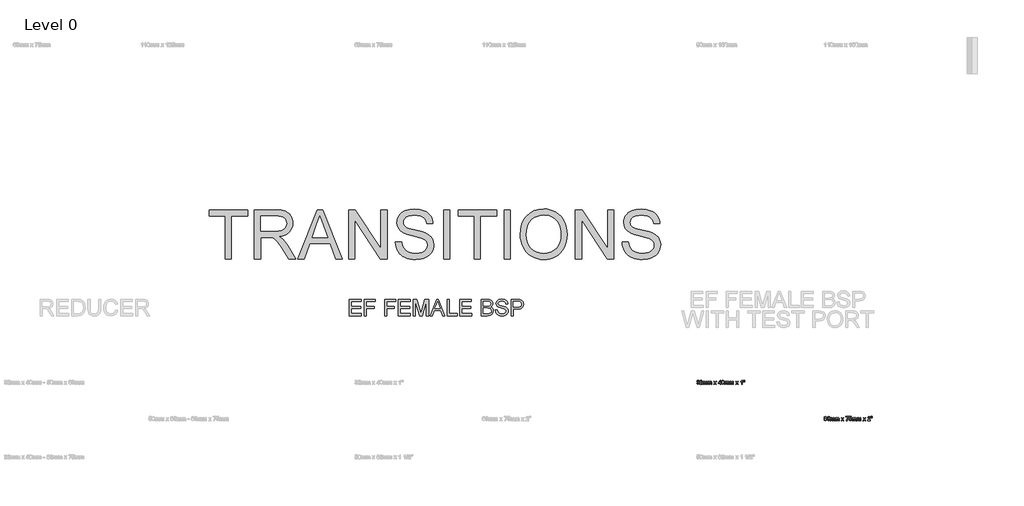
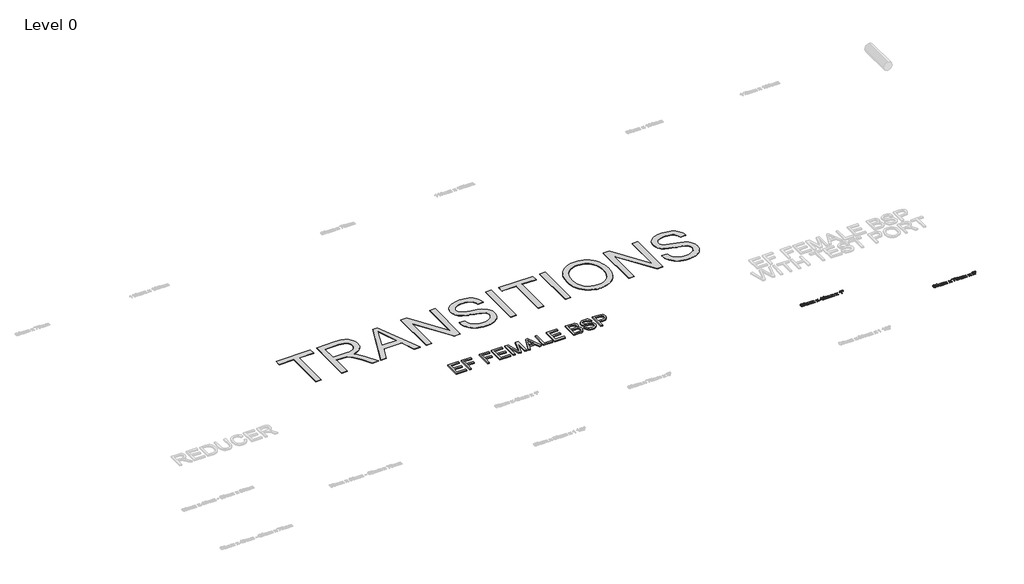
# One storey, part 5 of 21: 4 proxies.
"""IFC4 building model written with IfcOpenShell, lengths in millimetres."""

from ifc_helpers import new_model, si_unit, origin, origin_with_axes, place, context, project, spatial, polyline, outline, extrude, element, save

model = new_model("IFC4")

# Units and contexts
model_context = context("Model", 3, world=origin())
ifc_project = project(units=[si_unit("LENGTHUNIT", "METRE", prefix="MILLI")], contexts=[model_context])

# Site, building, storey
site = spatial("IfcSite", under=ifc_project)
building = spatial("IfcBuilding", under=site)
storey = spatial("IfcBuildingStorey", under=building, Name="Level 0", Elevation=0.0)

# Proxies
placement = place(None, origin())
element("IfcBuildingElementProxy", 1, Name="200mm Arial", ObjectType="200mm Arial", at=placement, inside=storey, context=model_context, shape_type="SweptSolid", body=[
    extrude(outline(polyline([(-7507.146494, -11953.2112631), (-7507.146494, -11752.2986428), (-7362.7405482, -11752.2986428), (-7362.7405482, -11777.4127203), (-7482.0324165, -11777.4127203), (-7482.0324165, -11837.0586545), (-7369.0190676, -11837.0586545), (-7369.0190676, -11862.172732), (-7482.0324165, -11862.172732), (-7482.0324165, -11928.0971856), (-7359.6012885, -11928.0971856), (-7359.6012885, -11953.2112631), (-7507.146494, -11953.2112631)])), origin_with_axes(), (0.0, 0.0, 1.0), 15.0),
    extrude(outline(polyline([(-7321.9301722, -11953.2112631), (-7321.9301722, -11752.2986428), (-7186.9420054, -11752.2986428), (-7186.9420054, -11777.4127203), (-7296.8160946, -11777.4127203), (-7296.8160946, -11837.0586545), (-7202.6383039, -11837.0586545), (-7202.6383039, -11862.172732), (-7296.8160946, -11862.172732), (-7296.8160946, -11953.2112631), (-7321.9301722, -11953.2112631)])), origin_with_axes(), (0.0, 0.0, 1.0), 15.0),
    extrude(outline(polyline([(-7073.9286565, -11953.2112631), (-7073.9286565, -11752.2986428), (-6938.9404897, -11752.2986428), (-6938.9404897, -11777.4127203), (-7048.814579, -11777.4127203), (-7048.814579, -11837.0586545), (-6954.6367882, -11837.0586545), (-6954.6367882, -11862.172732), (-7048.814579, -11862.172732), (-7048.814579, -11953.2112631), (-7073.9286565, -11953.2112631)])), origin_with_axes(), (0.0, 0.0, 1.0), 15.0),
    extrude(outline(polyline([(-6904.4086331, -11953.2112631), (-6904.4086331, -11752.2986428), (-6760.0026873, -11752.2986428), (-6760.0026873, -11777.4127203), (-6879.2945556, -11777.4127203), (-6879.2945556, -11837.0586545), (-6766.2812067, -11837.0586545), (-6766.2812067, -11862.172732), (-6879.2945556, -11862.172732), (-6879.2945556, -11928.0971856), (-6756.8634276, -11928.0971856), (-6756.8634276, -11953.2112631), (-6904.4086331, -11953.2112631)])), origin_with_axes(), (0.0, 0.0, 1.0), 15.0),
    extrude(outline(polyline([(-6719.1923113, -11953.2112631), (-6719.1923113, -11752.2986428), (-6675.9784396, -11752.2986428), (-6634.873758, -11893.9086855), (-6626.5841504, -11923.4863979), (-6617.6078297, -11891.4561388), (-6577.1898611, -11752.2986428), (-6533.9759894, -11752.2986428), (-6533.9759894, -11953.2112631), (-6559.090067, -11953.2112631), (-6559.090067, -11777.4127203), (-6609.5634767, -11953.2112631), (-6643.604824, -11953.2112631), (-6694.0782337, -11777.4127203), (-6694.0782337, -11953.2112631), (-6719.1923113, -11953.2112631)])), origin_with_axes(), (0.0, 0.0, 1.0), 15.0),
    extrude(outline(polyline([(-6513.4236486, -11953.2112631), (-6433.2253737, -11752.2986428), (-6411.839167, -11752.2986428), (-6331.6408921, -11953.2112631), (-6358.1774467, -11953.2112631), (-6381.1823341, -11890.4260692), (-6463.9312576, -11890.4260692), (-6486.8870941, -11953.2112631), (-6513.4236486, -11953.2112631)]), holes=[polyline([(-6454.7096822, -11865.3119917), (-6390.3548585, -11865.3119917), (-6408.4546527, -11815.9177025), (-6422.5322704, -11777.4127203), (-6435.0402582, -11811.6012204), (-6454.7096822, -11865.3119917)])]), origin_with_axes(), (0.0, 0.0, 1.0), 15.0),
    extrude(outline(polyline([(-6304.8100319, -11953.2112631), (-6304.8100319, -11752.2986428), (-6279.6959544, -11752.2986428), (-6279.6959544, -11928.0971856), (-6179.2396442, -11928.0971856), (-6179.2396442, -11953.2112631), (-6304.8100319, -11953.2112631)])), origin_with_axes(), (0.0, 0.0, 1.0), 15.0),
    extrude(outline(polyline([(-6150.986307, -11953.2112631), (-6150.986307, -11752.2986428), (-6006.5803612, -11752.2986428), (-6006.5803612, -11777.4127203), (-6125.8722295, -11777.4127203), (-6125.8722295, -11837.0586545), (-6012.8588805, -11837.0586545), (-6012.8588805, -11862.172732), (-6125.8722295, -11862.172732), (-6125.8722295, -11928.0971856), (-6003.4411015, -11928.0971856), (-6003.4411015, -11953.2112631), (-6150.986307, -11953.2112631)])), origin_with_axes(), (0.0, 0.0, 1.0), 15.0),
    extrude(outline(polyline([(-5887.2884929, -11953.2112631), (-5887.2884929, -11752.2986428), (-5810.6218851, -11752.2986428), (-5789.5361154, -11753.7763021), (-5773.0733961, -11758.2092802), (-5760.4550437, -11765.7079415), (-5750.9023745, -11776.3826507), (-5744.8875039, -11788.9396895), (-5742.882547, -11802.0853395), (-5744.5686728, -11814.1825257), (-5749.6270503, -11825.5562108), (-5758.0944675, -11835.5074187), (-5770.0077128, -11843.3371739), (-5755.7768109, -11850.7683902), (-5745.2615173, -11862.0746302), (-5738.7684, -11876.5078671), (-5736.6040276, -11893.3200743), (-5742.514665, -11920.3226127), (-5757.1563684, -11939.5505783), (-5779.0085589, -11949.7531723), (-5811.2104963, -11953.2112631), (-5887.2884929, -11953.2112631)]), holes=[polyline([(-5862.1744153, -11928.0971856), (-5810.670936, -11928.0971856), (-5792.0315816, -11927.1161669), (-5776.2617067, -11921.6469879), (-5765.813858, -11910.4879007), (-5761.7181052, -11893.5653289), (-5766.5250966, -11874.0430577), (-5772.8220101, -11866.9858548), (-5782.0987677, -11862.3934612), (-5813.1234826, -11859.0334723), (-5862.1744153, -11859.0334723), (-5862.1744153, -11928.0971856)]), polyline([(-5862.1744153, -11833.9193948), (-5816.3117933, -11833.9193948), (-5789.529984, -11831.7611537), (-5773.4167526, -11822.466002), (-5767.9966246, -11806.107516), (-5773.0488706, -11789.7245044), (-5787.5188958, -11780.0369452), (-5819.7944095, -11777.4127203), (-5862.1744153, -11777.4127203), (-5862.1744153, -11833.9193948)])]), origin_with_axes(), (0.0, 0.0, 1.0), 15.0),
    extrude(outline(polyline([(-5711.4899501, -11884.1475499), (-5686.3758726, -11884.1475499), (-5678.2824687, -11909.2861529), (-5670.1522766, -11918.1766344), (-5658.5149428, -11925.1786551), (-5644.2901723, -11929.7219977), (-5628.3976701, -11931.2364452), (-5602.1554211, -11926.650183), (-5585.2083239, -11914.0440933), (-5579.641043, -11897.195098), (-5583.8103723, -11881.523325), (-5590.1624681, -11875.3245133), (-5600.8800969, -11870.1189831), (-5637.4475672, -11860.5295258), (-5676.8109407, -11848.1441653), (-5689.3127972, -11839.6951421), (-5698.1726219, -11829.4557599), (-5703.4517285, -11817.6467479), (-5705.2114307, -11804.4888352), (-5703.0347956, -11789.7796867), (-5696.5048902, -11776.0638197), (-5685.7933927, -11764.4387486), (-5671.0719816, -11756.0019882), (-5653.4013831, -11750.8700344), (-5633.8423236, -11749.1593831), (-5612.6523207, -11750.9497421), (-5594.1110682, -11756.3208193), (-5578.8807536, -11765.1622499), (-5567.6235645, -11777.3636694), (-5560.4989165, -11792.1647883), (-5557.6662252, -11808.8053173), (-5582.7803027, -11808.8053173), (-5587.3910904, -11793.8202573), (-5597.0050732, -11783.0045267), (-5612.0269213, -11776.4562271), (-5632.861305, -11774.2734606), (-5654.186198, -11776.4317017), (-5668.8156387, -11782.9064248), (-5677.2769245, -11792.4345685), (-5680.0973532, -11803.7530712), (-5678.0985277, -11813.4038422), (-5672.1020511, -11821.1661523), (-5657.9263316, -11828.1068593), (-5631.0954714, -11835.194719), (-5586.6553264, -11847.8008087), (-5572.3385854, -11856.9120195), (-5562.3505892, -11868.1569458), (-5556.4828714, -11881.4129604), (-5554.5269655, -11896.5574358), (-5556.777177, -11912.0391365), (-5563.5278116, -11926.6011321), (-5574.5029578, -11939.1336454), (-5589.4267041, -11948.526899), (-5607.3732141, -11954.3946168), (-5627.4166515, -11956.3505228), (-5652.0218256, -11954.2413327), (-5672.2737294, -11947.9137624), (-5688.4053549, -11937.3432864), (-5700.649694, -11922.5053792), (-5708.5101059, -11904.4301105), (-5711.4899501, -11884.1475499)])), origin_with_axes(), (0.0, 0.0, 1.0), 15.0),
    extrude(outline(polyline([(-5516.8558492, -11953.2112631), (-5516.8558492, -11752.2986428), (-5442.3965334, -11752.2986428), (-5412.3773625, -11754.2116292), (-5387.9745235, -11763.6048828), (-5379.1024361, -11771.9312786), (-5372.1555977, -11783.0290521), (-5367.6674374, -11796.1195198), (-5366.171384, -11810.423998), (-5370.2119545, -11834.1033358), (-5382.3336663, -11853.8340735), (-5392.0411524, -11861.6025149), (-5405.0013285, -11867.1514017), (-5440.6797507, -11871.5905111), (-5491.7417716, -11871.5905111), (-5491.7417716, -11953.2112631), (-5516.8558492, -11953.2112631)]), holes=[polyline([(-5491.7417716, -11846.4764336), (-5439.2082227, -11846.4764336), (-5416.9390993, -11844.1710397), (-5402.2238195, -11837.2548582), (-5394.020051, -11826.1570847), (-5391.2854615, -11811.3069148), (-5392.8980109, -11800.0252003), (-5397.7356591, -11790.5093194), (-5405.1975323, -11783.3478832), (-5414.6827564, -11779.129503), (-5439.7968339, -11777.4127203), (-5491.7417716, -11777.4127203), (-5491.7417716, -11846.4764336)])]), origin_with_axes(), (0.0, 0.0, 1.0), 15.0),
])
element("IfcBuildingElementProxy", 2, Name="50mm", ObjectType="50mm", at=placement, inside=storey, context=model_context, shape_type="SweptSolid", body=[
    extrude(outline(polyline([(-3238.2285688, -12783.2605095), (-3231.9500494, -12782.4756946), (-3228.4858273, -12789.0853078), (-3222.0049728, -12791.1086588), (-3214.3775528, -12788.3250183), (-3211.5448614, -12781.4333623), (-3214.3530273, -12774.9402451), (-3221.4899381, -12772.3712025), (-3225.8922593, -12773.0579155), (-3225.1932835, -12766.7793962), (-3217.0630914, -12765.0503508), (-3213.8993062, -12759.5075954), (-3216.1924373, -12754.5963707), (-3222.1030747, -12752.6527275), (-3228.0872885, -12754.6147648), (-3231.1652345, -12760.5008768), (-3237.4437539, -12759.7160618), (-3232.3056687, -12749.8690871), (-3222.3238039, -12746.3742082), (-3214.7515662, -12748.0971222), (-3209.4540654, -12752.8060117), (-3207.6207868, -12759.1397134), (-3209.3620949, -12764.9277234), (-3214.5124429, -12769.08479), (-3207.6698378, -12773.3767466), (-3205.2663421, -12781.5437269), (-3210.0733335, -12792.7763905), (-3222.225702, -12797.3871782), (-3233.2376364, -12793.4508408), (-3238.2285688, -12783.2605095)])), origin_with_axes(), (0.0, 0.0, 1.0), 5.0),
    extrude(outline(polyline([(-3167.5952258, -12790.3238438), (-3167.5952258, -12796.6023632), (-3200.5574525, -12796.6023632), (-3199.8830022, -12792.2736184), (-3196.0692922, -12785.6088229), (-3188.2088802, -12778.3308908), (-3177.3686241, -12767.8707794), (-3174.6585601, -12760.7583942), (-3177.2153399, -12755.0010409), (-3183.8923981, -12752.6527275), (-3190.8514992, -12754.9458586), (-3193.4941182, -12761.2856917), (-3199.7726376, -12760.5008768), (-3194.9595148, -12749.9917144), (-3183.7575081, -12746.3742082), (-3172.5187131, -12750.3963846), (-3168.3800407, -12760.3782494), (-3169.4959494, -12766.3318064), (-3173.2054262, -12772.4876984), (-3182.200141, -12781.0900058), (-3189.4228908, -12787.1294019), (-3192.2555822, -12790.3238438), (-3167.5952258, -12790.3238438)])), origin_with_axes(), (0.0, 0.0, 1.0), 5.0),
    extrude(outline(polyline([(-3159.7470765, -12796.6023632), (-3159.7470765, -12759.7160618), (-3153.4685571, -12759.7160618), (-3153.4685571, -12765.7861148), (-3149.1520751, -12760.8135765), (-3143.0084457, -12758.9312469), (-3136.7176636, -12760.8503647), (-3133.2595729, -12766.2275732), (-3128.360611, -12760.7553285), (-3122.1740621, -12758.9312469), (-3113.9641622, -12761.9662734), (-3111.0885513, -12771.3166074), (-3111.0885513, -12796.6023632), (-3117.3670707, -12796.6023632), (-3117.3670707, -12774.0144087), (-3117.9495505, -12768.7720903), (-3120.0587406, -12766.190785), (-3123.6455901, -12765.2097663), (-3129.8198762, -12767.7236266), (-3132.2785542, -12775.7802423), (-3132.2785542, -12796.6023632), (-3138.5570736, -12796.6023632), (-3138.5570736, -12773.3154329), (-3140.0102075, -12767.2331173), (-3144.7742793, -12765.2097663), (-3149.4218552, -12766.558667), (-3152.512064, -12770.507267), (-3153.4685571, -12777.999797), (-3153.4685571, -12796.6023632), (-3159.7470765, -12796.6023632)])), origin_with_axes(), (0.0, 0.0, 1.0), 5.0),
    extrude(outline(polyline([(-3101.6707722, -12796.6023632), (-3101.6707722, -12759.7160618), (-3095.3922528, -12759.7160618), (-3095.3922528, -12765.7861148), (-3091.0757708, -12760.8135765), (-3084.9321414, -12758.9312469), (-3078.6413593, -12760.8503647), (-3075.1832686, -12766.2275732), (-3070.2843067, -12760.7553285), (-3064.0977578, -12758.9312469), (-3055.8878579, -12761.9662734), (-3053.012247, -12771.3166074), (-3053.012247, -12796.6023632), (-3059.2907664, -12796.6023632), (-3059.2907664, -12774.0144087), (-3059.8732462, -12768.7720903), (-3061.9824363, -12766.190785), (-3065.5692858, -12765.2097663), (-3071.7435719, -12767.7236266), (-3074.2022499, -12775.7802423), (-3074.2022499, -12796.6023632), (-3080.4807693, -12796.6023632), (-3080.4807693, -12773.3154329), (-3081.9339032, -12767.2331173), (-3086.697975, -12765.2097663), (-3091.3455509, -12766.558667), (-3094.4357597, -12770.507267), (-3095.3922528, -12777.999797), (-3095.3922528, -12796.6023632), (-3101.6707722, -12796.6023632)])), origin_with_axes(), (0.0, 0.0, 1.0), 5.0),
    extrude(outline(polyline([(-3027.8981695, -12796.6023632), (-3014.4827394, -12778.0611107), (-3027.1133545, -12759.7160618), (-3019.5595109, -12759.7160618), (-3013.4649325, -12768.5452297), (-3010.6199784, -12772.714559), (-3008.155169, -12769.3055192), (-3001.2144621, -12759.7160618), (-2993.6606184, -12759.7160618), (-3006.9288957, -12778.0611107), (-2994.1511278, -12796.6023632), (-3001.7049714, -12796.6023632), (-3009.3937051, -12785.4555388), (-3010.8039194, -12783.4199251), (-3020.3443258, -12796.6023632), (-3027.8981695, -12796.6023632)])), origin_with_axes(), (0.0, 0.0, 1.0), 5.0),
    extrude(outline(polyline([(-2950.2014921, -12796.6023632), (-2950.2014921, -12784.8301394), (-2972.9611248, -12784.8301394), (-2972.9611248, -12778.55162), (-2948.6318622, -12747.1590231), (-2943.9229727, -12747.1590231), (-2943.9229727, -12778.55162), (-2937.6444533, -12778.55162), (-2937.6444533, -12784.8301394), (-2943.9229727, -12784.8301394), (-2943.9229727, -12796.6023632), (-2950.2014921, -12796.6023632)]), holes=[polyline([(-2950.2014921, -12778.55162), (-2950.2014921, -12759.1519761), (-2965.2356029, -12778.55162), (-2950.2014921, -12778.55162)])]), origin_with_axes(), (0.0, 0.0, 1.0), 5.0),
    extrude(outline(polyline([(-2932.1507488, -12771.8929559), (-2930.3052075, -12757.4413248), (-2924.8237658, -12749.1087977), (-2915.6696355, -12746.3742082), (-2908.336521, -12747.9928889), (-2903.2720122, -12752.6588589), (-2900.3289563, -12760.0900752), (-2899.1885221, -12771.8929559), (-2901.0156693, -12786.2832733), (-2906.4787169, -12794.6341946), (-2915.6696355, -12797.3871782), (-2927.1475537, -12792.6047122), (-2930.8999501, -12784.1097038), (-2932.1507488, -12771.8929559)]), holes=[polyline([(-2925.8722295, -12771.8806932), (-2922.9291735, -12787.4727584), (-2915.6696355, -12791.1086588), (-2908.4100974, -12787.4604957), (-2905.4670415, -12771.8806932), (-2908.3119956, -12756.4664376), (-2915.7432119, -12752.6527275), (-2922.8310716, -12756.0127164), (-2925.8722295, -12771.8806932)])]), origin_with_axes(), (0.0, 0.0, 1.0), 5.0),
    extrude(outline(polyline([(-2892.1251878, -12796.6023632), (-2892.1251878, -12759.7160618), (-2885.8466684, -12759.7160618), (-2885.8466684, -12765.7861148), (-2881.5301863, -12760.8135765), (-2875.386557, -12758.9312469), (-2869.0957749, -12760.8503647), (-2865.6376841, -12766.2275732), (-2860.7387222, -12760.7553285), (-2854.5521733, -12758.9312469), (-2846.3422735, -12761.9662734), (-2843.4666625, -12771.3166074), (-2843.4666625, -12796.6023632), (-2849.7451819, -12796.6023632), (-2849.7451819, -12774.0144087), (-2850.3276618, -12768.7720903), (-2852.4368519, -12766.190785), (-2856.0237013, -12765.2097663), (-2862.1979875, -12767.7236266), (-2864.6566655, -12775.7802423), (-2864.6566655, -12796.6023632), (-2870.9351848, -12796.6023632), (-2870.9351848, -12773.3154329), (-2872.3883187, -12767.2331173), (-2877.1523906, -12765.2097663), (-2881.7999664, -12766.558667), (-2884.8901752, -12770.507267), (-2885.8466684, -12777.999797), (-2885.8466684, -12796.6023632), (-2892.1251878, -12796.6023632)])), origin_with_axes(), (0.0, 0.0, 1.0), 5.0),
    extrude(outline(polyline([(-2834.0488835, -12796.6023632), (-2834.0488835, -12759.7160618), (-2827.7703641, -12759.7160618), (-2827.7703641, -12765.7861148), (-2823.453882, -12760.8135765), (-2817.3102527, -12758.9312469), (-2811.0194706, -12760.8503647), (-2807.5613798, -12766.2275732), (-2802.6624179, -12760.7553285), (-2796.475869, -12758.9312469), (-2788.2659692, -12761.9662734), (-2785.3903582, -12771.3166074), (-2785.3903582, -12796.6023632), (-2791.6688776, -12796.6023632), (-2791.6688776, -12774.0144087), (-2792.2513574, -12768.7720903), (-2794.3605476, -12766.190785), (-2797.947397, -12765.2097663), (-2804.1216832, -12767.7236266), (-2806.5803612, -12775.7802423), (-2806.5803612, -12796.6023632), (-2812.8588805, -12796.6023632), (-2812.8588805, -12773.3154329), (-2814.3120144, -12767.2331173), (-2819.0760863, -12765.2097663), (-2823.7236621, -12766.558667), (-2826.8138709, -12770.507267), (-2827.7703641, -12777.999797), (-2827.7703641, -12796.6023632), (-2834.0488835, -12796.6023632)])), origin_with_axes(), (0.0, 0.0, 1.0), 5.0),
    extrude(outline(polyline([(-2760.2762807, -12796.6023632), (-2746.8608506, -12778.0611107), (-2759.4914658, -12759.7160618), (-2751.9376221, -12759.7160618), (-2745.8430438, -12768.5452297), (-2742.9980897, -12772.714559), (-2740.5332803, -12769.3055192), (-2733.5925733, -12759.7160618), (-2726.0387297, -12759.7160618), (-2739.307007, -12778.0611107), (-2726.529239, -12796.6023632), (-2734.0830826, -12796.6023632), (-2741.7718163, -12785.4555388), (-2743.1820307, -12783.4199251), (-2752.7224371, -12796.6023632), (-2760.2762807, -12796.6023632)])), origin_with_axes(), (0.0, 0.0, 1.0), 5.0),
    extrude(outline(polyline([(-2679.4403436, -12796.6023632), (-2685.718863, -12796.6023632), (-2685.718863, -12757.4597189), (-2691.6662886, -12761.6964933), (-2698.2759018, -12764.8664098), (-2698.2759018, -12758.9312469), (-2689.0727205, -12753.0573977), (-2683.4870456, -12746.3742082), (-2679.4403436, -12746.3742082), (-2679.4403436, -12796.6023632)])), origin_with_axes(), (0.0, 0.0, 1.0), 5.0),
    extrude(outline(polyline([(-2650.4757679, -12764.4249514), (-2651.9718213, -12754.7251294), (-2651.9718213, -12746.3742082), (-2645.6933019, -12746.3742082), (-2645.6933019, -12754.7251294), (-2647.1648299, -12764.4249514), (-2650.4757679, -12764.4249514)])), origin_with_axes(), (0.0, 0.0, 1.0), 5.0),
    extrude(outline(polyline([(-2662.9960184, -12764.4249514), (-2664.5288601, -12754.7251294), (-2664.5288601, -12746.3742082), (-2658.2503407, -12746.3742082), (-2658.2503407, -12754.7251294), (-2659.6237668, -12764.4249514), (-2662.9960184, -12764.4249514)])), origin_with_axes(), (0.0, 0.0, 1.0), 5.0),
])
element("IfcBuildingElementProxy", 3, Name="50mm", ObjectType="50mm", at=placement, inside=storey, context=model_context, shape_type="SweptSolid", body=[
    extrude(outline(polyline([(-1639.462485, -13206.9585336), (-1645.7410044, -13207.7433485), (-1648.1199746, -13202.5071615), (-1654.4107567, -13199.8951993), (-1660.0761395, -13201.4157782), (-1664.3619647, -13207.1240805), (-1666.1461924, -13218.3138245), (-1660.6095684, -13213.304498), (-1653.7485692, -13211.6674232), (-1643.0799913, -13216.1433208), (-1638.6776701, -13227.7070781), (-1640.750072, -13236.3706991), (-1646.4522429, -13242.5020657), (-1654.6805369, -13244.6296499), (-1667.4766989, -13238.9887927), (-1671.1877086, -13231.5207882), (-1672.4247118, -13220.3984892), (-1671.0512857, -13207.893567), (-1666.9310073, -13199.3433763), (-1661.3054785, -13195.048354), (-1654.0183493, -13193.6166799), (-1644.0977981, -13197.1606098), (-1639.462485, -13206.9585336)]), holes=[polyline([(-1666.1461924, -13227.6089763), (-1664.6930585, -13233.0474984), (-1660.8302976, -13236.9960985), (-1655.1710462, -13238.3511305), (-1647.7704867, -13235.5429646), (-1644.9561895, -13227.9155446), (-1647.7336985, -13220.613087), (-1655.4285636, -13217.9459425), (-1663.0253268, -13220.613087), (-1666.1461924, -13227.6089763)])]), origin_with_axes(), (0.0, 0.0, 1.0), 5.0),
    extrude(outline(polyline([(-1633.1839656, -13230.5029813), (-1626.9054462, -13229.7181664), (-1623.4412241, -13236.3277796), (-1616.9603696, -13238.3511305), (-1609.3329496, -13235.5674901), (-1606.5002582, -13228.6758341), (-1609.3084241, -13222.1827169), (-1616.4453348, -13219.6136743), (-1620.8476561, -13220.3003873), (-1620.1486803, -13214.0218679), (-1612.0184882, -13212.2928225), (-1608.854703, -13206.7500672), (-1611.1478341, -13201.8388425), (-1617.0584715, -13199.8951993), (-1623.0426853, -13201.8572366), (-1626.1206313, -13207.7433485), (-1632.3991507, -13206.9585336), (-1627.2610655, -13197.1115589), (-1617.2792007, -13193.6166799), (-1609.706963, -13195.3395939), (-1604.4094622, -13200.0484835), (-1602.5761836, -13206.3821852), (-1604.3174917, -13212.1701952), (-1609.4678397, -13216.3272618), (-1602.6252346, -13220.6192184), (-1600.2217389, -13228.7861987), (-1605.0287303, -13240.0188623), (-1617.1810988, -13244.6296499), (-1628.1930332, -13240.6933126), (-1633.1839656, -13230.5029813)])), origin_with_axes(), (0.0, 0.0, 1.0), 5.0),
    extrude(outline(polyline([(-1593.1584046, -13243.844835), (-1593.1584046, -13206.9585336), (-1586.8798852, -13206.9585336), (-1586.8798852, -13213.0285865), (-1582.5634031, -13208.0560482), (-1576.4197738, -13206.1737187), (-1570.1289917, -13208.0928364), (-1566.6709009, -13213.4700449), (-1561.771939, -13207.9978003), (-1555.5853901, -13206.1737187), (-1547.3754903, -13209.2087452), (-1544.4998793, -13218.5590792), (-1544.4998793, -13243.844835), (-1550.7783987, -13243.844835), (-1550.7783987, -13221.2568805), (-1551.3608785, -13216.0145621), (-1553.4700686, -13213.4332567), (-1557.0569181, -13212.4522381), (-1563.2312042, -13214.9660984), (-1565.6898822, -13223.0227141), (-1565.6898822, -13243.844835), (-1571.9684016, -13243.844835), (-1571.9684016, -13220.5579047), (-1573.4215355, -13214.4755891), (-1578.1856073, -13212.4522381), (-1582.8331832, -13213.8011387), (-1585.923392, -13217.7497388), (-1586.8798852, -13225.2422688), (-1586.8798852, -13243.844835), (-1593.1584046, -13243.844835)])), origin_with_axes(), (0.0, 0.0, 1.0), 5.0),
    extrude(outline(polyline([(-1535.0821002, -13243.844835), (-1535.0821002, -13206.9585336), (-1528.8035809, -13206.9585336), (-1528.8035809, -13213.0285865), (-1524.4870988, -13208.0560482), (-1518.3434695, -13206.1737187), (-1512.0526873, -13208.0928364), (-1508.5945966, -13213.4700449), (-1503.6956347, -13207.9978003), (-1497.5090858, -13206.1737187), (-1489.2991859, -13209.2087452), (-1486.423575, -13218.5590792), (-1486.423575, -13243.844835), (-1492.7020944, -13243.844835), (-1492.7020944, -13221.2568805), (-1493.2845742, -13216.0145621), (-1495.3937643, -13213.4332567), (-1498.9806138, -13212.4522381), (-1505.1548999, -13214.9660984), (-1507.6135779, -13223.0227141), (-1507.6135779, -13243.844835), (-1513.8920973, -13243.844835), (-1513.8920973, -13220.5579047), (-1515.3452312, -13214.4755891), (-1520.109303, -13212.4522381), (-1524.7568789, -13213.8011387), (-1527.8470877, -13217.7497388), (-1528.8035809, -13225.2422688), (-1528.8035809, -13243.844835), (-1535.0821002, -13243.844835)])), origin_with_axes(), (0.0, 0.0, 1.0), 5.0),
    extrude(outline(polyline([(-1461.3094975, -13243.844835), (-1447.8940674, -13225.3035824), (-1460.5246826, -13206.9585336), (-1452.9708389, -13206.9585336), (-1446.8762605, -13215.7877015), (-1444.0313064, -13219.9570308), (-1441.5664971, -13216.547991), (-1434.6257901, -13206.9585336), (-1427.0719465, -13206.9585336), (-1440.3402238, -13225.3035824), (-1427.5624558, -13243.844835), (-1435.1162994, -13243.844835), (-1442.8050331, -13232.6980105), (-1444.2152474, -13230.6623968), (-1453.7556538, -13243.844835), (-1461.3094975, -13243.844835)])), origin_with_axes(), (0.0, 0.0, 1.0), 5.0),
    extrude(outline(polyline([(-1404.0180081, -13200.6800142), (-1404.0180081, -13194.4014948), (-1371.0557813, -13194.4014948), (-1371.0557813, -13199.4782664), (-1380.4061154, -13212.985667), (-1387.5614202, -13230.196413), (-1389.8913395, -13243.844835), (-1396.1698589, -13243.844835), (-1393.6743927, -13229.6813782), (-1386.8256562, -13213.67238), (-1377.3343007, -13200.6800142), (-1404.0180081, -13200.6800142)])), origin_with_axes(), (0.0, 0.0, 1.0), 5.0),
    extrude(outline(polyline([(-1365.5620769, -13230.5029813), (-1359.2835575, -13229.7181664), (-1356.1197723, -13236.1867581), (-1349.5592101, -13238.3511305), (-1341.6865354, -13235.3406295), (-1338.8783695, -13227.3514589), (-1341.5087257, -13219.8957171), (-1349.4611082, -13217.1611276), (-1354.9732068, -13218.2525109), (-1358.4987426, -13221.0852022), (-1364.7772619, -13220.3003873), (-1359.2835575, -13194.4014948), (-1334.9542949, -13194.4014948), (-1334.9542949, -13200.6800142), (-1354.206786, -13200.6800142), (-1356.8923245, -13214.5123773), (-1347.7075374, -13210.8826082), (-1336.9715145, -13215.3830313), (-1332.5998501, -13226.9590514), (-1336.5361874, -13238.6086479), (-1342.1893074, -13243.1243994), (-1349.5837355, -13244.6296499), (-1360.663115, -13240.7607576), (-1365.5620769, -13230.5029813)])), origin_with_axes(), (0.0, 0.0, 1.0), 5.0),
    extrude(outline(polyline([(-1325.5365158, -13243.844835), (-1325.5365158, -13206.9585336), (-1319.2579964, -13206.9585336), (-1319.2579964, -13213.0285865), (-1314.9415143, -13208.0560482), (-1308.797885, -13206.1737187), (-1302.5071029, -13208.0928364), (-1299.0490121, -13213.4700449), (-1294.1500502, -13207.9978003), (-1287.9635014, -13206.1737187), (-1279.7536015, -13209.2087452), (-1276.8779906, -13218.5590792), (-1276.8779906, -13243.844835), (-1283.1565099, -13243.844835), (-1283.1565099, -13221.2568805), (-1283.7389898, -13216.0145621), (-1285.8481799, -13213.4332567), (-1289.4350293, -13212.4522381), (-1295.6093155, -13214.9660984), (-1298.0679935, -13223.0227141), (-1298.0679935, -13243.844835), (-1304.3465129, -13243.844835), (-1304.3465129, -13220.5579047), (-1305.7996468, -13214.4755891), (-1310.5637186, -13212.4522381), (-1315.2112945, -13213.8011387), (-1318.3015032, -13217.7497388), (-1319.2579964, -13225.2422688), (-1319.2579964, -13243.844835), (-1325.5365158, -13243.844835)])), origin_with_axes(), (0.0, 0.0, 1.0), 5.0),
    extrude(outline(polyline([(-1267.4602115, -13243.844835), (-1267.4602115, -13206.9585336), (-1261.1816921, -13206.9585336), (-1261.1816921, -13213.0285865), (-1256.86521, -13208.0560482), (-1250.7215807, -13206.1737187), (-1244.4307986, -13208.0928364), (-1240.9727078, -13213.4700449), (-1236.0737459, -13207.9978003), (-1229.887197, -13206.1737187), (-1221.6772972, -13209.2087452), (-1218.8016863, -13218.5590792), (-1218.8016863, -13243.844835), (-1225.0802056, -13243.844835), (-1225.0802056, -13221.2568805), (-1225.6626855, -13216.0145621), (-1227.7718756, -13213.4332567), (-1231.358725, -13212.4522381), (-1237.5330112, -13214.9660984), (-1239.9916892, -13223.0227141), (-1239.9916892, -13243.844835), (-1246.2702086, -13243.844835), (-1246.2702086, -13220.5579047), (-1247.7233424, -13214.4755891), (-1252.4874143, -13212.4522381), (-1257.1349902, -13213.8011387), (-1260.2251989, -13217.7497388), (-1261.1816921, -13225.2422688), (-1261.1816921, -13243.844835), (-1267.4602115, -13243.844835)])), origin_with_axes(), (0.0, 0.0, 1.0), 5.0),
    extrude(outline(polyline([(-1193.6876087, -13243.844835), (-1180.2721786, -13225.3035824), (-1192.9027938, -13206.9585336), (-1185.3489502, -13206.9585336), (-1179.2543718, -13215.7877015), (-1176.4094177, -13219.9570308), (-1173.9446083, -13216.547991), (-1167.0039013, -13206.9585336), (-1159.4500577, -13206.9585336), (-1172.718335, -13225.3035824), (-1159.940567, -13243.844835), (-1167.4944107, -13243.844835), (-1175.1831444, -13232.6980105), (-1176.5933587, -13230.6623968), (-1186.1337651, -13243.844835), (-1193.6876087, -13243.844835)])), origin_with_axes(), (0.0, 0.0, 1.0), 5.0),
    extrude(outline(polyline([(-1104.2187075, -13237.5663156), (-1104.2187075, -13243.844835), (-1137.1809343, -13243.844835), (-1136.5064839, -13239.5160902), (-1132.6927739, -13232.8512947), (-1124.832362, -13225.5733626), (-1113.9921058, -13215.1132512), (-1111.2820418, -13208.0008659), (-1113.8388217, -13202.2435127), (-1120.5158799, -13199.8951993), (-1127.474981, -13202.1883304), (-1130.1176, -13208.5281635), (-1136.3961193, -13207.7433485), (-1131.5829966, -13197.2341862), (-1120.3809898, -13193.6166799), (-1109.1421949, -13197.6388564), (-1105.0035224, -13207.6207212), (-1106.1194311, -13213.5742782), (-1109.8289079, -13219.7301702), (-1118.8236227, -13228.3324775), (-1126.0463725, -13234.3718736), (-1128.8790639, -13237.5663156), (-1104.2187075, -13237.5663156)])), origin_with_axes(), (0.0, 0.0, 1.0), 5.0),
    extrude(outline(polyline([(-1083.8870959, -13211.6674232), (-1085.3831493, -13201.9676012), (-1085.3831493, -13193.6166799), (-1079.10463, -13193.6166799), (-1079.10463, -13201.9676012), (-1080.5761579, -13211.6674232), (-1083.8870959, -13211.6674232)])), origin_with_axes(), (0.0, 0.0, 1.0), 5.0),
    extrude(outline(polyline([(-1096.4073465, -13211.6674232), (-1097.9401881, -13201.9676012), (-1097.9401881, -13193.6166799), (-1091.6616687, -13193.6166799), (-1091.6616687, -13201.9676012), (-1093.0350948, -13211.6674232), (-1096.4073465, -13211.6674232)])), origin_with_axes(), (0.0, 0.0, 1.0), 5.0),
])
element("IfcBuildingElementProxy", 4, Name="600mm Arial", ObjectType="600mm Arial", at=placement, inside=storey, context=model_context, shape_type="SweptSolid", body=[
    extrude(outline(polyline([(-9031.2570746, -11253.2112631), (-9031.2570746, -10725.8156348), (-9229.0304352, -10725.8156348), (-9229.0304352, -10650.4734022), (-8758.1414814, -10650.4734022), (-8758.1414814, -10725.8156348), (-8955.914842, -10725.8156348), (-8955.914842, -11253.2112631), (-9031.2570746, -11253.2112631)])), origin_with_axes(), (0.0, 0.0, 1.0), 5.0),
    extrude(outline(polyline([(-8673.3814697, -11253.2112631), (-8673.3814697, -10650.4734022), (-8413.6567811, -10650.4734022), (-8343.8511725, -10654.5384982), (-8293.065063, -10666.7337864), (-8273.4661498, -10676.427477), (-8255.9457697, -10689.2481645), (-8240.503923, -10705.195849), (-8227.1406095, -10724.2705304), (-8216.3570685, -10745.4467378), (-8208.6545393, -10767.699), (-8204.0330217, -10791.027317), (-8202.4925158, -10815.4316888), (-8205.0446972, -10846.3889587), (-8212.7012412, -10874.8078429), (-8225.4621479, -10900.6883412), (-8243.3274173, -10924.0304538), (-8266.5269756, -10944.0892196), (-8295.2907491, -10960.1196775), (-8329.6187378, -10972.1218276), (-8369.5109416, -10980.0956699), (-8344.678907, -10996.3192659), (-8326.6894774, -11012.3221326), (-8295.824178, -11048.9263912), (-8265.6210662, -11089.8716572), (-8165.1157051, -11253.2112631), (-8252.67162, -11253.2112631), (-8331.1040613, -11128.2785375), (-8387.7578886, -11045.578665), (-8408.8191328, -11021.4640002), (-8427.5627205, -11006.5095971), (-8463.3944268, -10992.1621993), (-8507.0988078, -10989.5134489), (-8598.039237, -10989.5134489), (-8598.039237, -11253.2112631), (-8673.3814697, -11253.2112631)]), holes=[polyline([(-8598.039237, -10914.1712163), (-8429.4021305, -10914.1712163), (-8380.9704658, -10911.5040719), (-8343.39132, -10903.5026385), (-8315.1011946, -10889.6334873), (-8294.536591, -10869.3631893), (-8282.0102091, -10844.8438543), (-8277.8347484, -10818.227592), (-8279.8259097, -10798.9597725), (-8285.7993936, -10781.4761807), (-8295.7552001, -10765.7768165), (-8309.6933292, -10751.8616801), (-8327.9356777, -10740.4665353), (-8350.8041422, -10732.3271461), (-8378.2987228, -10727.4435126), (-8410.4194195, -10725.8156348), (-8598.039237, -10725.8156348), (-8598.039237, -10914.1712163)])]), origin_with_axes(), (0.0, 0.0, 1.0), 5.0),
    extrude(outline(polyline([(-8140.8354934, -11253.2112631), (-7900.2406686, -10650.4734022), (-7836.0820486, -10650.4734022), (-7595.4872238, -11253.2112631), (-7675.0968875, -11253.2112631), (-7744.1115498, -11064.8556816), (-7992.3583202, -11064.8556816), (-8061.2258297, -11253.2112631), (-8140.8354934, -11253.2112631)]), holes=[polyline([(-7964.6935942, -10989.5134489), (-7771.6291231, -10989.5134489), (-7825.9285056, -10841.3305813), (-7868.1613586, -10725.8156348), (-7905.6853221, -10828.3811351), (-7964.6935942, -10989.5134489)])]), origin_with_axes(), (0.0, 0.0, 1.0), 5.0),
    extrude(outline(polyline([(-7514.9946432, -11253.2112631), (-7514.9946432, -10650.4734022), (-7434.3549099, -10650.4734022), (-7119.447922, -11127.9842319), (-7119.447922, -10650.4734022), (-7044.1056894, -10650.4734022), (-7044.1056894, -11253.2112631), (-7124.7454228, -11253.2112631), (-7439.6524106, -10775.5532806), (-7439.6524106, -11253.2112631), (-7514.9946432, -11253.2112631)])), origin_with_axes(), (0.0, 0.0, 1.0), 5.0),
    extrude(outline(polyline([(-6940.5101196, -11046.0201234), (-6865.167887, -11046.0201234), (-6856.5226601, -11087.8299122), (-6840.8876753, -11121.4359324), (-6816.497099, -11148.1073771), (-6781.5850977, -11169.113439), (-6738.9107862, -11182.7434669), (-6691.2332796, -11187.2868096), (-6649.257944, -11183.8471129), (-6612.5065327, -11173.5280229), (-6582.7264852, -11157.1940623), (-6561.6652409, -11135.7097538), (-6549.138859, -11111.0432661), (-6544.9633984, -11085.1627677), (-6548.0903953, -11059.9444569), (-6557.4713862, -11038.1474487), (-6576.5276736, -11019.5510139), (-6608.6805599, -11003.9344232), (-6718.3829709, -10975.1660511), (-6790.3958714, -10956.1281579), (-6836.4730913, -10938.0099696), (-6873.9786608, -10912.6629002), (-6900.5581349, -10881.9447536), (-6916.3954548, -10846.5177174), (-6921.6745614, -10807.0439793), (-6920.0420851, -10784.6077762), (-6915.144656, -10762.916534), (-6906.9822742, -10741.9702529), (-6895.5549398, -10721.7689329), (-6880.9914113, -10703.1357098), (-6863.4204475, -10686.8937197), (-6842.8420484, -10673.0429626), (-6819.256214, -10661.5834384), (-6766.2444185, -10646.1875769), (-6707.5672402, -10641.0556231), (-6643.9972315, -10646.4267002), (-6588.3734738, -10662.5399316), (-6564.0380798, -10674.5420817), (-6542.68253, -10689.0642235), (-6524.3068243, -10706.1063569), (-6508.9109628, -10725.668482), (-6496.6145072, -10747.1803817), (-6487.5370189, -10770.0718388), (-6481.6784981, -10794.3428535), (-6479.0389448, -10819.9934256), (-6554.3811774, -10819.9934256), (-6559.4211608, -10795.9523372), (-6568.2135405, -10775.0382458), (-6580.7583165, -10757.2511513), (-6597.0554889, -10742.5910538), (-6617.4085603, -10731.1315296), (-6642.1210333, -10722.9461552), (-6671.192908, -10718.0349306), (-6704.6241843, -10716.3978557), (-6739.1223184, -10718.0165365), (-6768.5988632, -10722.8725788), (-6793.0538189, -10730.9659827), (-6812.4871853, -10742.2967482), (-6827.2944356, -10755.9175791), (-6837.8710429, -10770.8811792), (-6844.2170073, -10787.1875487), (-6846.3323288, -10804.8366874), (-6844.8332097, -10820.0210167), (-6840.3358523, -10833.7890004), (-6832.8402566, -10846.1406384), (-6822.3464227, -10857.0759307), (-6805.8285211, -10867.4318088), (-6779.8192641, -10877.8980516), (-6699.3266835, -10899.1616309), (-6616.258929, -10919.3583525), (-6566.0062485, -10936.9799), (-6523.0560256, -10964.3135323), (-6506.450752, -10980.3807784), (-6493.092037, -10998.0483112), (-6482.8235309, -11017.2241602), (-6475.4888836, -11037.8163549), (-6469.6211658, -11083.2497813), (-6471.3088244, -11106.8172216), (-6476.3718004, -11129.6948832), (-6484.8100936, -11151.882766), (-6496.6237042, -11173.3808701), (-6511.6056985, -11193.3568625), (-6529.5491428, -11210.97841), (-6550.4540371, -11226.2455128), (-6574.3203816, -11239.1581709), (-6600.4537988, -11249.4266771), (-6628.1599116, -11256.7613243), (-6688.2902237, -11262.6290422), (-6726.8304612, -11261.0471496), (-6762.105746, -11256.3014718), (-6794.1160781, -11248.392009), (-6822.8614575, -11237.3187609), (-6848.5166282, -11223.0633336), (-6871.256334, -11205.6073329), (-6891.080575, -11184.9507589), (-6907.9893512, -11161.0936115), (-6921.6101821, -11134.8084429), (-6931.5705871, -11106.8678054), (-6937.8705663, -11077.2716989), (-6940.5101196, -11046.0201234)])), origin_with_axes(), (0.0, 0.0, 1.0), 5.0),
    extrude(outline(polyline([(-6347.1900378, -11253.2112631), (-6347.1900378, -10650.4734022), (-6271.8478051, -10650.4734022), (-6271.8478051, -11253.2112631), (-6347.1900378, -11253.2112631)])), origin_with_axes(), (0.0, 0.0, 1.0), 5.0),
    extrude(outline(polyline([(-5970.4788747, -11253.2112631), (-5970.4788747, -10725.8156348), (-6168.2522353, -10725.8156348), (-6168.2522353, -10650.4734022), (-5697.3632815, -10650.4734022), (-5697.3632815, -10725.8156348), (-5895.1366421, -10725.8156348), (-5895.1366421, -11253.2112631), (-5970.4788747, -11253.2112631)])), origin_with_axes(), (0.0, 0.0, 1.0), 5.0),
    extrude(outline(polyline([(-5603.1854907, -11253.2112631), (-5603.1854907, -10650.4734022), (-5527.8432581, -10650.4734022), (-5527.8432581, -11253.2112631), (-5603.1854907, -11253.2112631)])), origin_with_axes(), (0.0, 0.0, 1.0), 5.0),
    extrude(outline(polyline([(-5405.4121301, -10959.7885837), (-5400.3905409, -10889.0908613), (-5385.3257732, -10826.5049369), (-5360.217827, -10772.0308104), (-5343.897662, -10747.8356715), (-5325.0667024, -10725.668482), (-5281.9785237, -10688.6503562), (-5233.0594154, -10662.2088378), (-5178.3093774, -10646.3439268), (-5117.7284099, -10641.0556231), (-5077.178617, -10643.5388266), (-5038.6705691, -10650.988437), (-5002.2042663, -10663.4044543), (-4967.7797086, -10680.7868786), (-4936.3625863, -10702.611478), (-4908.9185894, -10728.3540206), (-4885.4477181, -10758.0145064), (-4865.9499724, -10791.5929355), (-4850.6276873, -10828.3259528), (-4839.6831979, -10867.4502029), (-4833.1165043, -10908.9656861), (-4830.9276064, -10952.8724022), (-4833.2314674, -10997.3585325), (-4840.1430504, -11039.4350357), (-4851.6623554, -11079.1019118), (-4867.7893824, -11116.3591609), (-4888.1424537, -11150.2226985), (-4912.339892, -11179.7084405), (-4940.3816971, -11204.8163866), (-4972.267869, -11225.5465371), (-5006.7430105, -11241.770133), (-5042.5517242, -11253.3584159), (-5079.6940101, -11260.3113856), (-5118.1698683, -11262.6290422), (-5159.427834, -11260.0676638), (-5198.4417196, -11252.3835286), (-5235.211525, -11239.5766366), (-5269.7372503, -11221.6469879), (-5301.1175845, -11199.2889596), (-5328.4512167, -11173.1969291), (-5351.738147, -11143.3708964), (-5370.9783754, -11109.8108614), (-5386.0431431, -11073.8641919), (-5396.8036914, -11036.8782558), (-5403.2600204, -10998.8530531), (-5405.4121301, -10959.7885837)]), holes=[polyline([(-5330.0698975, -10960.5243477), (-5326.3037056, -11010.4735256), (-5315.0051298, -11054.8125031), (-5296.1741702, -11093.5412801), (-5269.8108267, -11126.6598567), (-5237.7637064, -11153.1841486), (-5201.8814163, -11172.1300714), (-5162.1639564, -11183.497625), (-5118.6113267, -11187.2868096), (-5074.3137359, -11183.4608368), (-5034.1272265, -11171.9829186), (-4998.0517983, -11152.8530548), (-4966.0874515, -11126.0712456), (-4939.917246, -11092.2536932), (-4921.2242422, -11052.0165999), (-4910.0084398, -11005.3599659), (-4906.2698391, -10952.283791), (-4907.8701257, -10917.804051), (-4912.6709858, -10885.5867853), (-4920.6724192, -10855.6319939), (-4931.8744259, -10827.9396767), (-4946.1528459, -10802.8731172), (-4963.3835188, -10780.795599), (-4983.5664448, -10761.707122), (-5006.7016237, -10745.6076861), (-5032.0716858, -10732.8283853), (-5058.9592611, -10723.7003133), (-5087.3643497, -10718.2234701), (-5117.2869515, -10716.3978557), (-5159.3266665, -10719.9157273), (-5198.331355, -10730.469342), (-5234.3010171, -10748.0586999), (-5267.2356527, -10772.683801), (-5294.7256348, -10805.5310646), (-5314.3613363, -10847.7869103), (-5326.1427572, -10899.451338), (-5330.0698975, -10960.5243477)])]), origin_with_axes(), (0.0, 0.0, 1.0), 5.0),
    extrude(outline(polyline([(-4727.3320366, -11253.2112631), (-4727.3320366, -10650.4734022), (-4646.6923033, -10650.4734022), (-4331.7853154, -11127.9842319), (-4331.7853154, -10650.4734022), (-4256.4430828, -10650.4734022), (-4256.4430828, -11253.2112631), (-4337.0828161, -11253.2112631), (-4651.989804, -10775.5532806), (-4651.989804, -11253.2112631), (-4727.3320366, -11253.2112631)])), origin_with_axes(), (0.0, 0.0, 1.0), 5.0),
    extrude(outline(polyline([(-4152.8475129, -11046.0201234), (-4077.5052803, -11046.0201234), (-4068.8600534, -11087.8299122), (-4053.2250686, -11121.4359324), (-4028.8344924, -11148.1073771), (-3993.922491, -11169.113439), (-3951.2481796, -11182.7434669), (-3903.570673, -11187.2868096), (-3861.5953373, -11183.8471129), (-3824.843926, -11173.5280229), (-3795.0638785, -11157.1940623), (-3774.0026343, -11135.7097538), (-3761.4762524, -11111.0432661), (-3757.3007917, -11085.1627677), (-3760.4277887, -11059.9444569), (-3769.8087796, -11038.1474487), (-3788.8650669, -11019.5510139), (-3821.0179533, -11003.9344232), (-3930.7203642, -10975.1660511), (-4002.7332648, -10956.1281579), (-4048.8104847, -10938.0099696), (-4086.3160541, -10912.6629002), (-4112.8955283, -10881.9447536), (-4128.7328481, -10846.5177174), (-4134.0119548, -10807.0439793), (-4132.3794784, -10784.6077762), (-4127.4820494, -10762.916534), (-4119.3196676, -10741.9702529), (-4107.8923331, -10721.7689329), (-4093.3288046, -10703.1357098), (-4075.7578408, -10686.8937197), (-4055.1794417, -10673.0429626), (-4031.5936073, -10661.5834384), (-3978.5818118, -10646.1875769), (-3919.9046336, -10641.0556231), (-3856.3346248, -10646.4267002), (-3800.7108671, -10662.5399316), (-3776.3754732, -10674.5420817), (-3755.0199233, -10689.0642235), (-3736.6442177, -10706.1063569), (-3721.2483562, -10725.668482), (-3708.9519005, -10747.1803817), (-3699.8744123, -10770.0718388), (-3694.0158915, -10794.3428535), (-3691.3763382, -10819.9934256), (-3766.7185708, -10819.9934256), (-3771.7585541, -10795.9523372), (-3780.5509338, -10775.0382458), (-3793.0957098, -10757.2511513), (-3809.3928822, -10742.5910538), (-3829.7459536, -10731.1315296), (-3854.4584266, -10722.9461552), (-3883.5303013, -10718.0349306), (-3916.9615776, -10716.3978557), (-3951.4597117, -10718.0165365), (-3980.9362566, -10722.8725788), (-4005.3912122, -10730.9659827), (-4024.8245786, -10742.2967482), (-4039.6318289, -10755.9175791), (-4050.2084363, -10770.8811792), (-4056.5544007, -10787.1875487), (-4058.6697222, -10804.8366874), (-4057.170603, -10820.0210167), (-4052.6732456, -10833.7890004), (-4045.17765, -10846.1406384), (-4034.6838161, -10857.0759307), (-4018.1659145, -10867.4318088), (-3992.1566574, -10877.8980516), (-3911.6640769, -10899.1616309), (-3828.5963224, -10919.3583525), (-3778.3436418, -10936.9799), (-3735.3934189, -10964.3135323), (-3718.7881453, -10980.3807784), (-3705.4294304, -10998.0483112), (-3695.1609242, -11017.2241602), (-3687.8262769, -11037.8163549), (-3681.9585591, -11083.2497813), (-3683.6462178, -11106.8172216), (-3688.7091937, -11129.6948832), (-3697.147487, -11151.882766), (-3708.9610975, -11173.3808701), (-3723.9430918, -11193.3568625), (-3741.8865361, -11210.97841), (-3762.7914305, -11226.2455128), (-3786.6577749, -11239.1581709), (-3812.7911922, -11249.4266771), (-3840.4973049, -11256.7613243), (-3900.627617, -11262.6290422), (-3939.1678546, -11261.0471496), (-3974.4431394, -11256.3014718), (-4006.4534715, -11248.392009), (-4035.1988509, -11237.3187609), (-4060.8540215, -11223.0633336), (-4083.5937273, -11205.6073329), (-4103.4179684, -11184.9507589), (-4120.3267446, -11161.0936115), (-4133.9475754, -11134.8084429), (-4143.9079804, -11106.8678054), (-4150.2079596, -11077.2716989), (-4152.8475129, -11046.0201234)])), origin_with_axes(), (0.0, 0.0, 1.0), 5.0),
])

save(model, "model.ifc")
